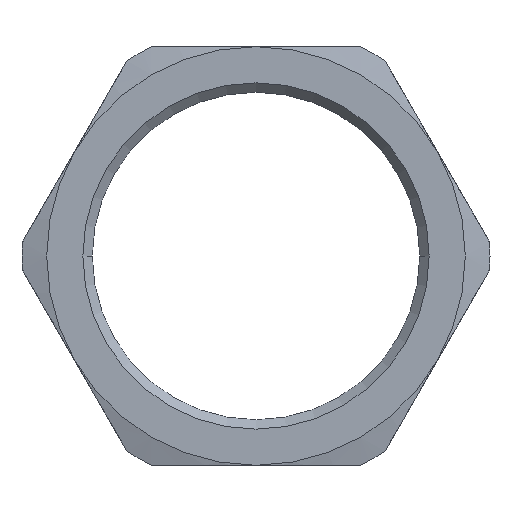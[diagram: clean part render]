
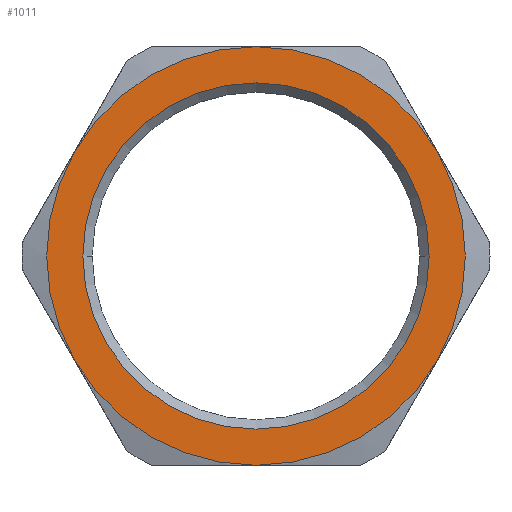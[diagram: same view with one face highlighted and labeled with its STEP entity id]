
A CAD part, left-side view. The second image highlights one B-rep face of the part: STEP entity #1011.
In plain terms, the highlighted planar face has unit normal (-1, 0, 0) as drawn and (0, 0, 1) by its records, which use the part's own axes.
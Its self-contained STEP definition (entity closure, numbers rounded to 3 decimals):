
#299=CARTESIAN_POINT('',(0.,22.75,4.5));
#300=VERTEX_POINT('',#299);
#314=CARTESIAN_POINT('',(0.,-22.75,4.5));
#315=VERTEX_POINT('',#314);
#322=CARTESIAN_POINT('',(0.,0.,4.5));
#323=DIRECTION('',(0.0,0.0,-1.0));
#324=DIRECTION('',(0.0,1.0,0.0));
#325=AXIS2_PLACEMENT_3D('',#322,#323,#324);
#326=CIRCLE('',#325,22.75);
#327=EDGE_CURVE('',#300,#315,#326,.T.);
#338=CARTESIAN_POINT('',(0.,0.,4.5));
#339=DIRECTION('',(0.0,0.0,-1.0));
#340=DIRECTION('',(0.0,1.0,0.0));
#341=AXIS2_PLACEMENT_3D('',#338,#339,#340);
#342=CIRCLE('',#341,22.75);
#343=EDGE_CURVE('',#315,#300,#342,.T.);
#626=CARTESIAN_POINT('',(-27.5,0.,4.5));
#627=VERTEX_POINT('',#626);
#641=CARTESIAN_POINT('',(-13.75,23.816,4.5));
#642=VERTEX_POINT('',#641);
#643=CARTESIAN_POINT('',(0.,0.0,4.5));
#644=DIRECTION('',(0.0,0.0,1.0));
#645=DIRECTION('',(1.0,0.0,0.0));
#646=AXIS2_PLACEMENT_3D('',#643,#644,#645);
#647=CIRCLE('',#646,27.5);
#648=EDGE_CURVE('',#642,#627,#647,.T.);
#702=CARTESIAN_POINT('',(-13.75,-23.816,4.5));
#703=VERTEX_POINT('',#702);
#717=CARTESIAN_POINT('',(0.,0.0,4.5));
#718=DIRECTION('',(0.0,0.0,1.0));
#719=DIRECTION('',(1.0,0.0,0.0));
#720=AXIS2_PLACEMENT_3D('',#717,#718,#719);
#721=CIRCLE('',#720,27.5);
#722=EDGE_CURVE('',#627,#703,#721,.T.);
#764=CARTESIAN_POINT('',(13.75,-23.816,4.5));
#765=VERTEX_POINT('',#764);
#779=CARTESIAN_POINT('',(0.,0.0,4.5));
#780=DIRECTION('',(0.0,0.0,1.0));
#781=DIRECTION('',(1.0,0.0,0.0));
#782=AXIS2_PLACEMENT_3D('',#779,#780,#781);
#783=CIRCLE('',#782,27.5);
#784=EDGE_CURVE('',#703,#765,#783,.T.);
#827=CARTESIAN_POINT('',(27.5,0.0,4.5));
#828=VERTEX_POINT('',#827);
#842=CARTESIAN_POINT('',(0.,0.0,4.5));
#843=DIRECTION('',(0.0,0.0,1.0));
#844=DIRECTION('',(1.0,0.0,0.0));
#845=AXIS2_PLACEMENT_3D('',#842,#843,#844);
#846=CIRCLE('',#845,27.5);
#847=EDGE_CURVE('',#765,#828,#846,.T.);
#872=CARTESIAN_POINT('',(13.75,23.816,4.5));
#873=VERTEX_POINT('',#872);
#874=CARTESIAN_POINT('',(0.,0.0,4.5));
#875=DIRECTION('',(0.0,0.0,1.0));
#876=DIRECTION('',(1.0,0.0,0.0));
#877=AXIS2_PLACEMENT_3D('',#874,#875,#876);
#878=CIRCLE('',#877,27.5);
#879=EDGE_CURVE('',#873,#642,#878,.T.);
#917=CARTESIAN_POINT('',(0.,0.0,4.5));
#918=DIRECTION('',(0.0,0.0,1.0));
#919=DIRECTION('',(1.0,0.0,0.0));
#920=AXIS2_PLACEMENT_3D('',#917,#918,#919);
#921=CIRCLE('',#920,27.5);
#922=EDGE_CURVE('',#828,#873,#921,.T.);
#994=CARTESIAN_POINT('',(0.0,0.,4.5));
#995=DIRECTION('',(0.0,0.0,1.0));
#996=DIRECTION('',(1.0,0.0,0.0));
#997=AXIS2_PLACEMENT_3D('',#994,#995,#996);
#998=PLANE('',#997);
#999=ORIENTED_EDGE('',*,*,#847,.T.);
#1000=ORIENTED_EDGE('',*,*,#922,.T.);
#1001=ORIENTED_EDGE('',*,*,#879,.T.);
#1002=ORIENTED_EDGE('',*,*,#648,.T.);
#1003=ORIENTED_EDGE('',*,*,#722,.T.);
#1004=ORIENTED_EDGE('',*,*,#784,.T.);
#1005=EDGE_LOOP('',(#999,#1000,#1001,#1002,#1003,#1004));
#1006=FACE_OUTER_BOUND('',#1005,.T.);
#1007=ORIENTED_EDGE('',*,*,#327,.T.);
#1008=ORIENTED_EDGE('',*,*,#343,.T.);
#1009=EDGE_LOOP('',(#1007,#1008));
#1010=FACE_BOUND('',#1009,.T.);
#1011=ADVANCED_FACE('',(#1006,#1010),#998,.T.);
